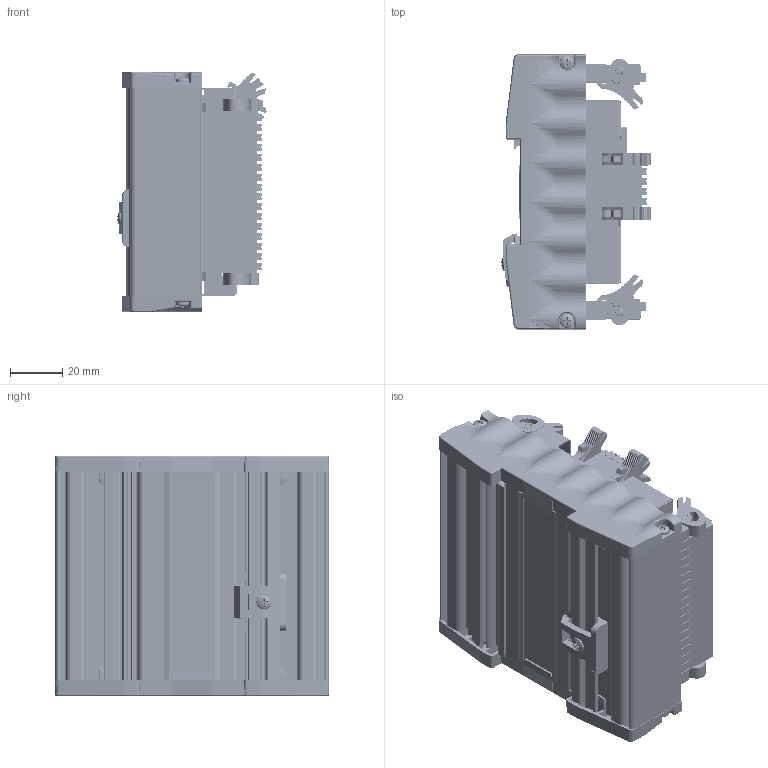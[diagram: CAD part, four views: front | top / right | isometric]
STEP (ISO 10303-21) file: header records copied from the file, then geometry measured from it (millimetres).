
FILE_DESCRIPTION (( 'STEP AP214' ), '1' );
FILE_NAME ('EC_COMPACT_DIO_vereinfacht_Stand19012015.STEP', '2015-01-19T19:54:43', ( '' ), ( '' ), 'SwSTEP 2.0', 'SolidWorks 2014', '' );
FILE_SCHEMA (( 'AUTOMOTIVE_DESIGN' ));
Length unit declared in the file: millimetre
Products named in the file (1): EC_COMPACT_DIO_vereinfacht_Stand19012015
Bounding box: 57.23 x 105.4 x 92.07 mm (x, y, z)
Surface area: 133210.7 mm2 (no closed solid volume)
Topology: 0 solids, 39 shells, 8125 faces, 22353 edges, 14598 vertices
Faces by surface type: plane 5675, cylinder 1689, bspline 412, cone 335, sphere 10, torus 4
Entity records: 373574 total; most frequent: CARTESIAN_POINT 79993, ORIENTED_EDGE 44610, DIRECTION 39199, EDGE_CURVE 22313, LINE 16611, VECTOR 16611, VERTEX_POINT 14598, AXIS2_PLACEMENT_3D 11294
